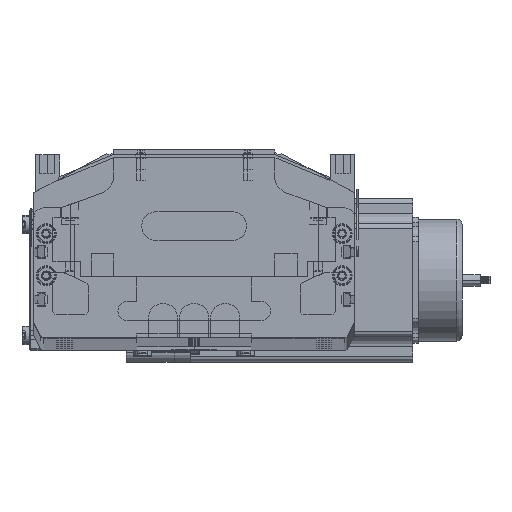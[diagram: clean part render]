
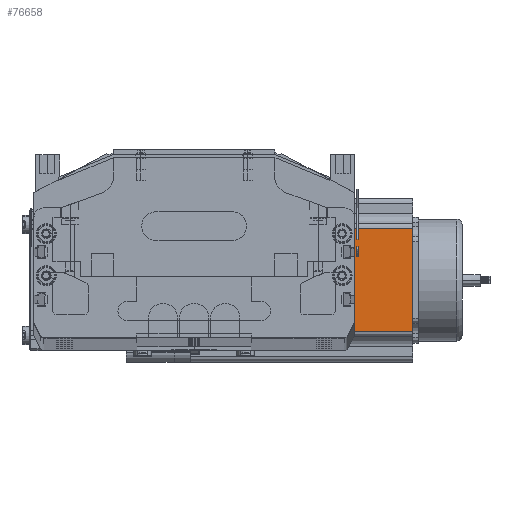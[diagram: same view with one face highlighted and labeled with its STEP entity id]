
A CAD part, top view. The second image highlights one B-rep face of the part: STEP entity #76658.
In plain terms, the highlighted planar face has unit normal (0, 0, 1) as drawn and (0, -1, 0) by its records, which use the part's own axes.
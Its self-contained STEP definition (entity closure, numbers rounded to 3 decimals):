
#21598 = VERTEX_POINT ( 'NONE', #24667 ) ;
#24667 = CARTESIAN_POINT ( 'NONE',  ( 16.16, 0., 0. ) ) ;
#35076 = CARTESIAN_POINT ( 'NONE',  ( 69.74, 0., 116.5 ) ) ;
#35077 = LINE ( 'NONE', #35076, #35130 ) ;
#35102 = CARTESIAN_POINT ( 'NONE',  ( 0., 0., 116.5 ) ) ;
#35106 = PLANE ( 'NONE',  #35111 ) ;
#35108 = DIRECTION ( 'NONE',  ( 0., 0., -1. ) ) ;
#35109 = VECTOR ( 'NONE', #35108, 1000. ) ;
#35111 = AXIS2_PLACEMENT_3D ( 'NONE', #35102, #35161, #35160 ) ;
#35113 = CARTESIAN_POINT ( 'NONE',  ( 16.16, 0., 116.5 ) ) ;
#35114 = LINE ( 'NONE', #35113, #35109 ) ;
#35115 = FACE_OUTER_BOUND ( 'NONE', #76655, .T. ) ;
#35116 = DIRECTION ( 'NONE',  ( 1., 0., 0. ) ) ;
#35117 = VECTOR ( 'NONE', #35116, 1000. ) ;
#35118 = CARTESIAN_POINT ( 'NONE',  ( 0., 0., 116.5 ) ) ;
#35119 = LINE ( 'NONE', #35118, #35117 ) ;
#35122 = DIRECTION ( 'NONE',  ( 1., 0., 0. ) ) ;
#35123 = VECTOR ( 'NONE', #35122, 1000. ) ;
#35125 = CARTESIAN_POINT ( 'NONE',  ( 0., 0., 0. ) ) ;
#35127 = CARTESIAN_POINT ( 'NONE',  ( 16.16, 0., 116.5 ) ) ;
#35129 = DIRECTION ( 'NONE',  ( 0., 0., 1. ) ) ;
#35130 = VECTOR ( 'NONE', #35129, 1000. ) ;
#35132 = LINE ( 'NONE', #35125, #35123 ) ;
#35160 = DIRECTION ( 'NONE',  ( 0., 0., 1. ) ) ;
#35161 = DIRECTION ( 'NONE',  ( 0., 1., 0. ) ) ;
#35163 = CARTESIAN_POINT ( 'NONE',  ( 69.74, 0., 116.5 ) ) ;
#35167 = CARTESIAN_POINT ( 'NONE',  ( 69.74, 0., 0. ) ) ;
#76636 = ORIENTED_EDGE ( 'NONE', *, *, #76638, .T. ) ;
#76637 = EDGE_CURVE ( 'NONE', #76659, #76661, #35077, .T. ) ;
#76638 = EDGE_CURVE ( 'NONE', #21598, #76659, #35132, .T. ) ;
#76640 = ORIENTED_EDGE ( 'NONE', *, *, #76642, .F. ) ;
#76641 = ORIENTED_EDGE ( 'NONE', *, *, #76637, .T. ) ;
#76642 = EDGE_CURVE ( 'NONE', #76643, #76661, #35119, .T. ) ;
#76643 = VERTEX_POINT ( 'NONE', #35127 ) ;
#76646 = EDGE_CURVE ( 'NONE', #76643, #21598, #35114, .T. ) ;
#76655 = EDGE_LOOP ( 'NONE', ( #76636, #76641, #76640, #76656 ) ) ;
#76656 = ORIENTED_EDGE ( 'NONE', *, *, #76646, .T. ) ;
#76658 = ADVANCED_FACE ( 'NONE', ( #35115 ), #35106, .F. ) ;
#76659 = VERTEX_POINT ( 'NONE', #35167 ) ;
#76661 = VERTEX_POINT ( 'NONE', #35163 ) ;
